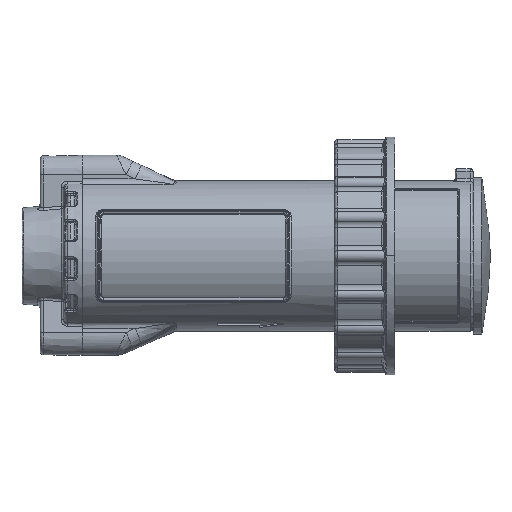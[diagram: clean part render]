
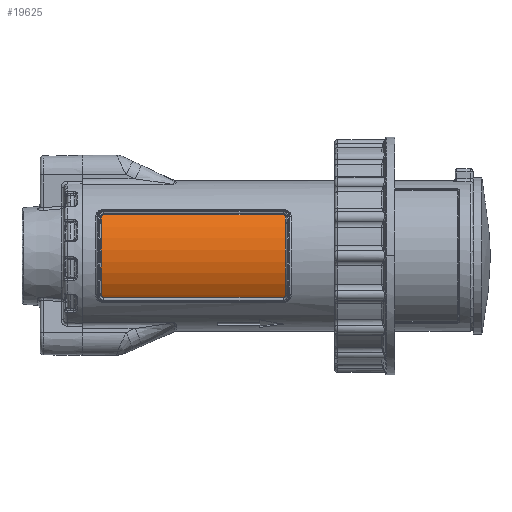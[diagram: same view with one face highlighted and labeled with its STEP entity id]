
A CAD part, top view. The second image highlights one B-rep face of the part: STEP entity #19625.
In plain terms, the highlighted cylindrical face has radius 24.5 mm (diameter 49 mm), a partial arc.
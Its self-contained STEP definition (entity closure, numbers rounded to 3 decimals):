
#429 = CARTESIAN_POINT ( 'NONE',  ( 26.4, 12.944, 20.801 ) ) ;
#1810 = AXIS2_PLACEMENT_3D ( 'NONE', #35759, #78381, #17277 ) ;
#3297 = B_SPLINE_CURVE_WITH_KNOTS ( 'NONE', 3,
 ( #22291, #58273, #51916, #33369, #76220, #9867, #9111, #75711, #52184, #15678, #15167, #57470, #15925, #63602, #22022, #27260, #64354, #21761, #28042 ),
 .UNSPECIFIED., .F., .F.,
 ( 4, 3, 3, 3, 3, 3, 4 ),
 ( 3.276, 3.559, 3.847, 4.141, 4.443, 5.071, 5.438 ),
 .UNSPECIFIED. ) ;
#3992 = DIRECTION ( 'NONE',  ( 1., 0., 0. ) ) ;
#4872 = CARTESIAN_POINT ( 'NONE',  ( 86.8, -13.738, 20.286 ) ) ;
#6680 = CARTESIAN_POINT ( 'NONE',  ( 27.2, -13.738, 20.286 ) ) ;
#7348 = CARTESIAN_POINT ( 'NONE',  ( 87.432, -13.469, 20.467 ) ) ;
#7467 = VERTEX_POINT ( 'NONE', #49450 ) ;
#9111 = CARTESIAN_POINT ( 'NONE',  ( 87.142, 13.662, 20.337 ) ) ;
#9191 = CARTESIAN_POINT ( 'NONE',  ( 27.2, 13.738, 20.286 ) ) ;
#9867 = CARTESIAN_POINT ( 'NONE',  ( 87.089, 13.686, 20.321 ) ) ;
#11876 = B_SPLINE_CURVE_WITH_KNOTS ( 'NONE', 5,
 ( #25793, #68143, #61845, #19981, #7348, #62375, #68652, #13429, #68390 ),
 .UNSPECIFIED., .F., .F.,
 ( 6, 3, 6 ),
 ( 3.171, 4.132, 5.333 ),
 .UNSPECIFIED. ) ;
#12005 = EDGE_CURVE ( 'NONE', #47003, #57080, #74079, .T. ) ;
#12465 = EDGE_CURVE ( 'NONE', #69090, #7467, #77792, .T. ) ;
#12619 = CARTESIAN_POINT ( 'NONE',  ( 27.05, 13.738, 20.286 ) ) ;
#12779 = CARTESIAN_POINT ( 'NONE',  ( 27.054, -13.738, 20.286 ) ) ;
#12941 = EDGE_CURVE ( 'NONE', #57080, #73059, #23799, .T. ) ;
#13429 = CARTESIAN_POINT ( 'NONE',  ( 86.95, -13.738, 20.286 ) ) ;
#13843 = CARTESIAN_POINT ( 'NONE',  ( 26.4, -12.944, 20.801 ) ) ;
#13899 = LINE ( 'NONE', #9191, #58369 ) ;
#13993 = CARTESIAN_POINT ( 'NONE',  ( 86.8, 13.738, 20.286 ) ) ;
#14420 = CYLINDRICAL_SURFACE ( 'NONE', #35374, 24.5 ) ;
#15167 = CARTESIAN_POINT ( 'NONE',  ( 87.338, 13.535, 20.422 ) ) ;
#15678 = CARTESIAN_POINT ( 'NONE',  ( 87.291, 13.571, 20.398 ) ) ;
#15925 = CARTESIAN_POINT ( 'NONE',  ( 87.416, 13.45, 20.478 ) ) ;
#17277 = DIRECTION ( 'NONE',  ( 0., 0., -1. ) ) ;
#18151 = CARTESIAN_POINT ( 'NONE',  ( 26.417, 13.153, 20.67 ) ) ;
#19625 = ADVANCED_FACE ( 'NONE', ( #30489 ), #14420, .T. ) ;
#19782 = EDGE_LOOP ( 'NONE', ( #31428, #38013, #52888, #50989, #52788, #78009, #34427, #59292 ) ) ;
#19981 = CARTESIAN_POINT ( 'NONE',  ( 87.548, -13.254, 20.606 ) ) ;
#21761 = CARTESIAN_POINT ( 'NONE',  ( 87.6, 13.011, 20.76 ) ) ;
#22022 = CARTESIAN_POINT ( 'NONE',  ( 87.546, 13.253, 20.606 ) ) ;
#22291 = CARTESIAN_POINT ( 'NONE',  ( 86.8, 13.738, 20.286 ) ) ;
#23799 = B_SPLINE_CURVE_WITH_KNOTS ( 'NONE', 5,
 ( #30038, #66535, #18151, #41930, #78462, #72620, #59985, #12619, #66014 ),
 .UNSPECIFIED., .F., .F.,
 ( 6, 3, 6 ),
 ( 0., 0.444, 1. ),
 .UNSPECIFIED. ) ;
#24445 = VERTEX_POINT ( 'NONE', #6680 ) ;
#25246 = EDGE_CURVE ( 'NONE', #44341, #24445, #34604, .T. ) ;
#25643 = CARTESIAN_POINT ( 'NONE',  ( 87.6, 12.944, 20.801 ) ) ;
#25793 = CARTESIAN_POINT ( 'NONE',  ( 87.6, -12.944, 20.801 ) ) ;
#26401 = EDGE_CURVE ( 'NONE', #24445, #47003, #28430, .T. ) ;
#27260 = CARTESIAN_POINT ( 'NONE',  ( 87.575, 13.142, 20.677 ) ) ;
#28042 = CARTESIAN_POINT ( 'NONE',  ( 87.6, 12.944, 20.801 ) ) ;
#28430 = B_SPLINE_CURVE_WITH_KNOTS ( 'NONE', 5,
 ( #72515, #12779, #67993, #49741, #49487, #31214, #55847, #67479, #31725 ),
 .UNSPECIFIED., .F., .F.,
 ( 6, 3, 6 ),
 ( 0., 0.54, 1. ),
 .UNSPECIFIED. ) ;
#30038 = CARTESIAN_POINT ( 'NONE',  ( 26.4, 12.944, 20.801 ) ) ;
#30489 = FACE_OUTER_BOUND ( 'NONE', #19782, .T. ) ;
#31214 = CARTESIAN_POINT ( 'NONE',  ( 26.456, -13.265, 20.599 ) ) ;
#31428 = ORIENTED_EDGE ( 'NONE', *, *, #12005, .F. ) ;
#31725 = CARTESIAN_POINT ( 'NONE',  ( 26.4, -12.944, 20.801 ) ) ;
#33369 = CARTESIAN_POINT ( 'NONE',  ( 86.975, 13.719, 20.299 ) ) ;
#33627 = DIRECTION ( 'NONE',  ( 0., 0., -1. ) ) ;
#34187 = DIRECTION ( 'NONE',  ( -1., 0., 0. ) ) ;
#34427 = ORIENTED_EDGE ( 'NONE', *, *, #49400, .F. ) ;
#34604 = LINE ( 'NONE', #70447, #61194 ) ;
#35374 = AXIS2_PLACEMENT_3D ( 'NONE', #36613, #36088, #33627 ) ;
#35759 = CARTESIAN_POINT ( 'NONE',  ( 26.4, 0., 0. ) ) ;
#36088 = DIRECTION ( 'NONE',  ( -1., 0., 0. ) ) ;
#36477 = CARTESIAN_POINT ( 'NONE',  ( 27.2, 13.738, 20.286 ) ) ;
#36613 = CARTESIAN_POINT ( 'NONE',  ( 81.5, 0., 0. ) ) ;
#38013 = ORIENTED_EDGE ( 'NONE', *, *, #26401, .F. ) ;
#41930 = CARTESIAN_POINT ( 'NONE',  ( 26.452, 13.254, 20.606 ) ) ;
#44341 = VERTEX_POINT ( 'NONE', #4872 ) ;
#46387 = AXIS2_PLACEMENT_3D ( 'NONE', #76943, #3992, #77486 ) ;
#47003 = VERTEX_POINT ( 'NONE', #13843 ) ;
#49400 = EDGE_CURVE ( 'NONE', #73059, #50776, #13899, .T. ) ;
#49450 = CARTESIAN_POINT ( 'NONE',  ( 87.6, -12.944, 20.801 ) ) ;
#49487 = CARTESIAN_POINT ( 'NONE',  ( 26.576, -13.478, 20.46 ) ) ;
#49741 = CARTESIAN_POINT ( 'NONE',  ( 26.777, -13.639, 20.353 ) ) ;
#50776 = VERTEX_POINT ( 'NONE', #13993 ) ;
#50989 = ORIENTED_EDGE ( 'NONE', *, *, #74631, .F. ) ;
#51916 = CARTESIAN_POINT ( 'NONE',  ( 86.918, 13.731, 20.29 ) ) ;
#52184 = CARTESIAN_POINT ( 'NONE',  ( 87.246, 13.606, 20.375 ) ) ;
#52277 = DIRECTION ( 'NONE',  ( 1., 0., 0. ) ) ;
#52503 = EDGE_CURVE ( 'NONE', #50776, #69090, #3297, .T. ) ;
#52788 = ORIENTED_EDGE ( 'NONE', *, *, #12465, .F. ) ;
#52888 = ORIENTED_EDGE ( 'NONE', *, *, #25246, .F. ) ;
#55847 = CARTESIAN_POINT ( 'NONE',  ( 26.419, -13.161, 20.666 ) ) ;
#57080 = VERTEX_POINT ( 'NONE', #429 ) ;
#57470 = CARTESIAN_POINT ( 'NONE',  ( 87.38, 13.494, 20.449 ) ) ;
#58273 = CARTESIAN_POINT ( 'NONE',  ( 86.859, 13.738, 20.286 ) ) ;
#58369 = VECTOR ( 'NONE', #52277, 1000. ) ;
#59292 = ORIENTED_EDGE ( 'NONE', *, *, #12941, .F. ) ;
#59985 = CARTESIAN_POINT ( 'NONE',  ( 26.9, 13.703, 20.31 ) ) ;
#61194 = VECTOR ( 'NONE', #34187, 1000. ) ;
#61845 = CARTESIAN_POINT ( 'NONE',  ( 87.583, -13.153, 20.67 ) ) ;
#62375 = CARTESIAN_POINT ( 'NONE',  ( 87.234, -13.633, 20.357 ) ) ;
#63602 = CARTESIAN_POINT ( 'NONE',  ( 87.493, 13.359, 20.538 ) ) ;
#64354 = CARTESIAN_POINT ( 'NONE',  ( 87.592, 13.078, 20.718 ) ) ;
#66014 = CARTESIAN_POINT ( 'NONE',  ( 27.2, 13.738, 20.286 ) ) ;
#66535 = CARTESIAN_POINT ( 'NONE',  ( 26.4, 13.049, 20.736 ) ) ;
#67479 = CARTESIAN_POINT ( 'NONE',  ( 26.4, -13.053, 20.734 ) ) ;
#67993 = CARTESIAN_POINT ( 'NONE',  ( 26.908, -13.705, 20.308 ) ) ;
#68143 = CARTESIAN_POINT ( 'NONE',  ( 87.6, -13.049, 20.736 ) ) ;
#68390 = CARTESIAN_POINT ( 'NONE',  ( 86.8, -13.738, 20.286 ) ) ;
#68652 = CARTESIAN_POINT ( 'NONE',  ( 87.1, -13.703, 20.31 ) ) ;
#69090 = VERTEX_POINT ( 'NONE', #25643 ) ;
#70447 = CARTESIAN_POINT ( 'NONE',  ( 27.2, -13.738, 20.286 ) ) ;
#72515 = CARTESIAN_POINT ( 'NONE',  ( 27.2, -13.738, 20.286 ) ) ;
#72620 = CARTESIAN_POINT ( 'NONE',  ( 26.766, 13.633, 20.357 ) ) ;
#73059 = VERTEX_POINT ( 'NONE', #36477 ) ;
#74079 = CIRCLE ( 'NONE', #1810, 24.5 ) ;
#74631 = EDGE_CURVE ( 'NONE', #7467, #44341, #11876, .T. ) ;
#75711 = CARTESIAN_POINT ( 'NONE',  ( 87.195, 13.637, 20.354 ) ) ;
#76220 = CARTESIAN_POINT ( 'NONE',  ( 87.033, 13.706, 20.308 ) ) ;
#76943 = CARTESIAN_POINT ( 'NONE',  ( 87.6, 0., 0. ) ) ;
#77486 = DIRECTION ( 'NONE',  ( 0., 0., -1. ) ) ;
#77792 = CIRCLE ( 'NONE', #46387, 24.5 ) ;
#78009 = ORIENTED_EDGE ( 'NONE', *, *, #52503, .F. ) ;
#78381 = DIRECTION ( 'NONE',  ( -1., 0., 0. ) ) ;
#78462 = CARTESIAN_POINT ( 'NONE',  ( 26.568, 13.469, 20.467 ) ) ;
